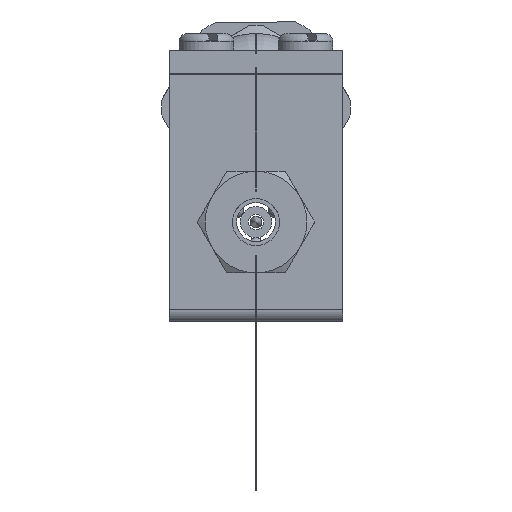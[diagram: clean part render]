
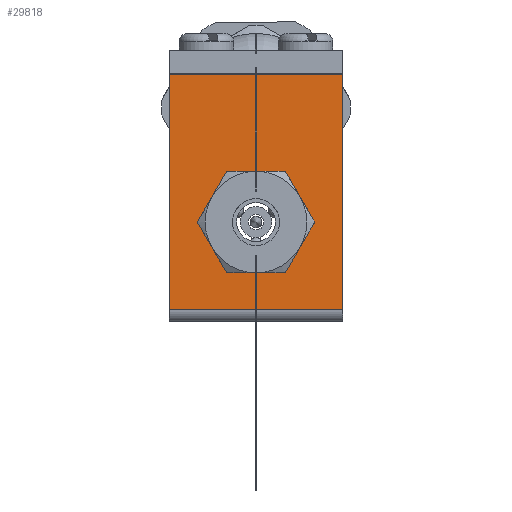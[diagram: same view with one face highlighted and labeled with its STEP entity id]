
A CAD part, left-side view. The second image highlights one B-rep face of the part: STEP entity #29818.
In plain terms, the highlighted planar face has unit normal (-1, 0, 0).
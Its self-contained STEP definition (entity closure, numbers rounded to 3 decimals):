
#11958=PLANE('',#29105);
#12470=VECTOR('',#22173,1.);
#12471=VECTOR('',#22174,1.);
#12472=VECTOR('',#22175,1.);
#12473=VECTOR('',#22176,1.);
#13443=LINE('',#25799,#12470);
#13444=LINE('',#25801,#12471);
#13445=LINE('',#25803,#12472);
#13446=LINE('',#25804,#12473);
#15088=ORIENTED_EDGE('',*,*,#18612,.F.);
#15089=ORIENTED_EDGE('',*,*,#18613,.T.);
#15090=ORIENTED_EDGE('',*,*,#18614,.T.);
#15091=ORIENTED_EDGE('',*,*,#18615,.F.);
#15092=ORIENTED_EDGE('',*,*,#18611,.F.);
#17198=CIRCLE('',#29104,4.864);
#17541=VERTEX_POINT('',#25794);
#17542=VERTEX_POINT('',#25797);
#17543=VERTEX_POINT('',#25798);
#17544=VERTEX_POINT('',#25800);
#17545=VERTEX_POINT('',#25802);
#18611=EDGE_CURVE('',#17541,#17541,#17198,.T.);
#18612=EDGE_CURVE('',#17542,#17543,#13443,.T.);
#18613=EDGE_CURVE('',#17542,#17544,#13444,.T.);
#18614=EDGE_CURVE('',#17544,#17545,#13445,.T.);
#18615=EDGE_CURVE('',#17543,#17545,#13446,.T.);
#19890=EDGE_LOOP('',(#15088,#15089,#15090,#15091));
#19891=EDGE_LOOP('',(#15092));
#20672=FACE_BOUND('',#19890,.T.);
#20673=FACE_BOUND('',#19891,.T.);
#22169=DIRECTION('',(-1.,0.,0.));
#22170=DIRECTION('',(0.,0.,-4.864));
#22171=DIRECTION('',(-1.,0.,0.));
#22172=DIRECTION('',(0.,1.,0.));
#22173=DIRECTION('',(0.,0.,30.1));
#22174=DIRECTION('',(0.,-22.2,0.));
#22175=DIRECTION('',(0.,0.,30.1));
#22176=DIRECTION('',(0.,-22.2,0.));
#25794=CARTESIAN_POINT('',(94.272,152.652,7.926));
#25795=CARTESIAN_POINT('',(94.272,152.652,12.79));
#25796=CARTESIAN_POINT('',(94.272,163.752,1.6));
#25797=CARTESIAN_POINT('',(94.272,163.752,1.6));
#25798=CARTESIAN_POINT('',(94.272,163.752,31.7));
#25799=CARTESIAN_POINT('',(94.272,163.752,1.6));
#25800=CARTESIAN_POINT('',(94.272,141.552,1.6));
#25801=CARTESIAN_POINT('',(94.272,163.752,1.6));
#25802=CARTESIAN_POINT('',(94.272,141.552,31.7));
#25803=CARTESIAN_POINT('',(94.272,141.552,1.6));
#25804=CARTESIAN_POINT('',(94.272,163.752,31.7));
#29104=AXIS2_PLACEMENT_3D('',#25795,#22169,#22170);
#29105=AXIS2_PLACEMENT_3D('',#25796,#22171,#22172);
#29818=ADVANCED_FACE('',(#20672,#20673),#11958,.T.);
